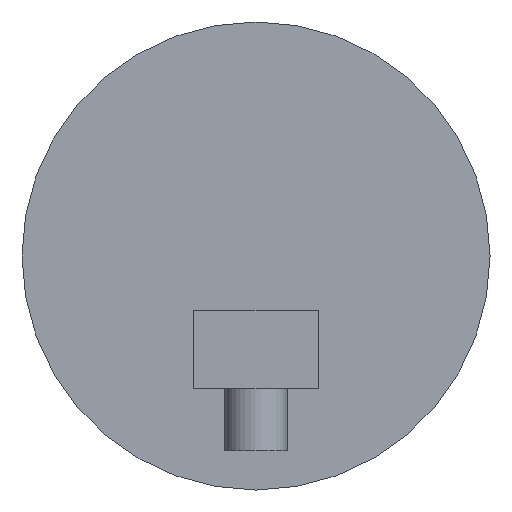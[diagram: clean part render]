
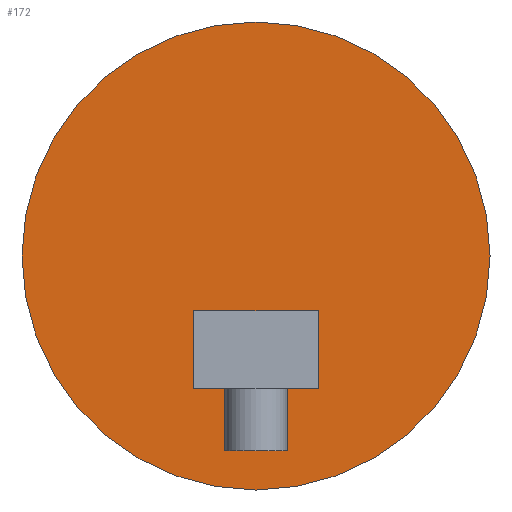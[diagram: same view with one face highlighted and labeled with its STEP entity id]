
A CAD part, left-side view. The second image highlights one B-rep face of the part: STEP entity #172.
In plain terms, the highlighted planar face has unit normal (-1, 0, 0).
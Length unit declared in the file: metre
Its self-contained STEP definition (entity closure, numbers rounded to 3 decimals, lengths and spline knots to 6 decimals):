
#15=FACE_BOUND('',#42,.T.);
#19=PLANE('',#203);
#29=FACE_OUTER_BOUND('',#41,.T.);
#41=EDGE_LOOP('',(#130));
#42=EDGE_LOOP('',(#131,#132,#133,#134));
#55=LINE('',#283,#70);
#56=LINE('',#285,#71);
#57=LINE('',#287,#72);
#58=LINE('',#288,#73);
#70=VECTOR('',#232,0.01);
#71=VECTOR('',#233,0.01);
#72=VECTOR('',#234,0.01);
#73=VECTOR('',#235,0.01);
#86=CIRCLE('',#204,0.3);
#92=VERTEX_POINT('',#279);
#93=VERTEX_POINT('',#281);
#94=VERTEX_POINT('',#282);
#95=VERTEX_POINT('',#284);
#96=VERTEX_POINT('',#286);
#107=EDGE_CURVE('',#92,#92,#86,.T.);
#108=EDGE_CURVE('',#93,#94,#55,.T.);
#109=EDGE_CURVE('',#94,#95,#56,.T.);
#110=EDGE_CURVE('',#96,#95,#57,.T.);
#111=EDGE_CURVE('',#93,#96,#58,.T.);
#130=ORIENTED_EDGE('',*,*,#107,.T.);
#131=ORIENTED_EDGE('',*,*,#108,.T.);
#132=ORIENTED_EDGE('',*,*,#109,.T.);
#133=ORIENTED_EDGE('',*,*,#110,.F.);
#134=ORIENTED_EDGE('',*,*,#111,.F.);
#172=ADVANCED_FACE('',(#29,#15),#19,.F.);
#203=AXIS2_PLACEMENT_3D('',#278,#228,#229);
#204=AXIS2_PLACEMENT_3D('',#280,#230,#231);
#228=DIRECTION('center_axis',(1.,0.,0.));
#229=DIRECTION('ref_axis',(0.,0.,-1.));
#230=DIRECTION('center_axis',(-1.,0.,0.));
#231=DIRECTION('ref_axis',(0.,-1.,0.));
#232=DIRECTION('',(0.,1.,0.));
#233=DIRECTION('',(0.,0.,1.));
#234=DIRECTION('',(0.,1.,0.));
#235=DIRECTION('',(0.,0.,1.));
#278=CARTESIAN_POINT('Origin',(0.08,0.,0.25));
#279=CARTESIAN_POINT('',(0.08,0.3,0.25));
#280=CARTESIAN_POINT('Origin',(0.08,0.,0.25));
#281=CARTESIAN_POINT('',(0.08,-0.08,0.08));
#282=CARTESIAN_POINT('',(0.08,0.08,0.08));
#283=CARTESIAN_POINT('',(0.08,-0.08,0.08));
#284=CARTESIAN_POINT('',(0.08,0.08,0.18));
#285=CARTESIAN_POINT('',(0.08,0.08,0.08));
#286=CARTESIAN_POINT('',(0.08,-0.08,0.18));
#287=CARTESIAN_POINT('',(0.08,-0.08,0.18));
#288=CARTESIAN_POINT('',(0.08,-0.08,0.08));
